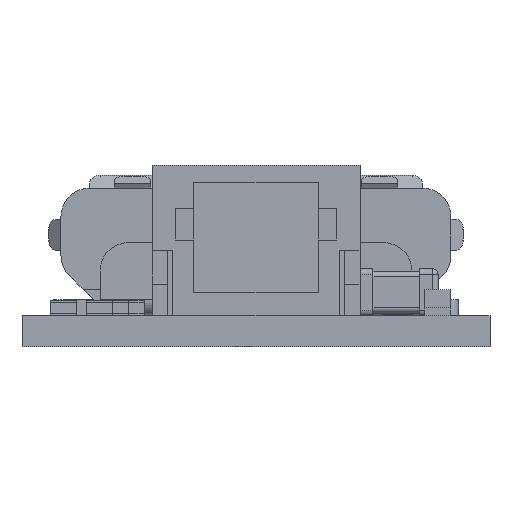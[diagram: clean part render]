
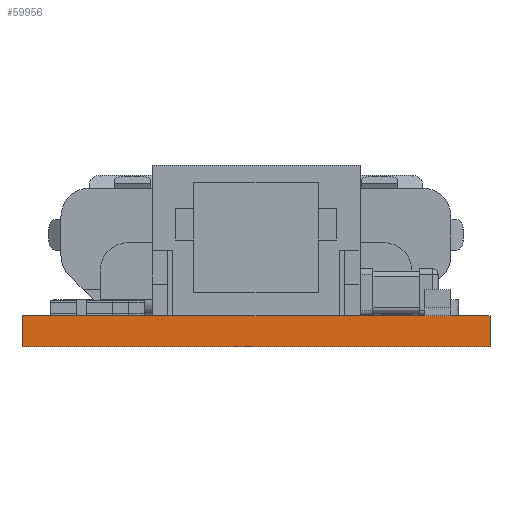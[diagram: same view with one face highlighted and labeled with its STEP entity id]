
A CAD part, front view. The second image highlights one B-rep face of the part: STEP entity #59956.
In plain terms, the highlighted planar face has unit normal (0, -1, 0).
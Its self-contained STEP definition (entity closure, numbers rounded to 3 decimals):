
#59956 = ADVANCED_FACE('',(#59957),#59971,.F.);
#59957 = FACE_BOUND('',#59958,.F.);
#59958 = EDGE_LOOP('',(#59959,#59994,#60022,#60050));
#59959 = ORIENTED_EDGE('',*,*,#59960,.T.);
#59960 = EDGE_CURVE('',#59961,#59963,#59965,.T.);
#59961 = VERTEX_POINT('',#59962);
#59962 = CARTESIAN_POINT('',(15.5,11.,0.));
#59963 = VERTEX_POINT('',#59964);
#59964 = CARTESIAN_POINT('',(15.5,11.,0.6));
#59965 = SURFACE_CURVE('',#59966,(#59970,#59982),.PCURVE_S1.);
#59966 = LINE('',#59967,#59968);
#59967 = CARTESIAN_POINT('',(15.5,11.,0.));
#59968 = VECTOR('',#59969,1.);
#59969 = DIRECTION('',(0.,0.,1.));
#59970 = PCURVE('',#59971,#59976);
#59971 = PLANE('',#59972);
#59972 = AXIS2_PLACEMENT_3D('',#59973,#59974,#59975);
#59973 = CARTESIAN_POINT('',(15.5,11.,0.));
#59974 = DIRECTION('',(0.,1.,0.));
#59975 = DIRECTION('',(1.,0.,0.));
#59976 = DEFINITIONAL_REPRESENTATION('',(#59977),#59981);
#59977 = LINE('',#59978,#59979);
#59978 = CARTESIAN_POINT('',(0.,0.));
#59979 = VECTOR('',#59980,1.);
#59980 = DIRECTION('',(0.,-1.));
#59981 = ( GEOMETRIC_REPRESENTATION_CONTEXT(2) 
PARAMETRIC_REPRESENTATION_CONTEXT() REPRESENTATION_CONTEXT('2D SPACE',''
  ) );
#59982 = PCURVE('',#59983,#59988);
#59983 = PLANE('',#59984);
#59984 = AXIS2_PLACEMENT_3D('',#59985,#59986,#59987);
#59985 = CARTESIAN_POINT('',(15.5,25.,0.));
#59986 = DIRECTION('',(1.,0.,0.));
#59987 = DIRECTION('',(0.,-1.,0.));
#59988 = DEFINITIONAL_REPRESENTATION('',(#59989),#59993);
#59989 = LINE('',#59990,#59991);
#59990 = CARTESIAN_POINT('',(14.,0.));
#59991 = VECTOR('',#59992,1.);
#59992 = DIRECTION('',(0.,-1.));
#59993 = ( GEOMETRIC_REPRESENTATION_CONTEXT(2) 
PARAMETRIC_REPRESENTATION_CONTEXT() REPRESENTATION_CONTEXT('2D SPACE',''
  ) );
#59994 = ORIENTED_EDGE('',*,*,#59995,.T.);
#59995 = EDGE_CURVE('',#59963,#59996,#59998,.T.);
#59996 = VERTEX_POINT('',#59997);
#59997 = CARTESIAN_POINT('',(24.5,11.,0.6));
#59998 = SURFACE_CURVE('',#59999,(#60003,#60010),.PCURVE_S1.);
#59999 = LINE('',#60000,#60001);
#60000 = CARTESIAN_POINT('',(15.5,11.,0.6));
#60001 = VECTOR('',#60002,1.);
#60002 = DIRECTION('',(1.,0.,0.));
#60003 = PCURVE('',#59971,#60004);
#60004 = DEFINITIONAL_REPRESENTATION('',(#60005),#60009);
#60005 = LINE('',#60006,#60007);
#60006 = CARTESIAN_POINT('',(0.,-0.6));
#60007 = VECTOR('',#60008,1.);
#60008 = DIRECTION('',(1.,0.));
#60009 = ( GEOMETRIC_REPRESENTATION_CONTEXT(2) 
PARAMETRIC_REPRESENTATION_CONTEXT() REPRESENTATION_CONTEXT('2D SPACE',''
  ) );
#60010 = PCURVE('',#60011,#60016);
#60011 = PLANE('',#60012);
#60012 = AXIS2_PLACEMENT_3D('',#60013,#60014,#60015);
#60013 = CARTESIAN_POINT('',(20.,18.008,0.6));
#60014 = DIRECTION('',(0.,0.,1.));
#60015 = DIRECTION('',(1.,0.,-0.));
#60016 = DEFINITIONAL_REPRESENTATION('',(#60017),#60021);
#60017 = LINE('',#60018,#60019);
#60018 = CARTESIAN_POINT('',(-4.5,-7.008));
#60019 = VECTOR('',#60020,1.);
#60020 = DIRECTION('',(1.,0.));
#60021 = ( GEOMETRIC_REPRESENTATION_CONTEXT(2) 
PARAMETRIC_REPRESENTATION_CONTEXT() REPRESENTATION_CONTEXT('2D SPACE',''
  ) );
#60022 = ORIENTED_EDGE('',*,*,#60023,.F.);
#60023 = EDGE_CURVE('',#60024,#59996,#60026,.T.);
#60024 = VERTEX_POINT('',#60025);
#60025 = CARTESIAN_POINT('',(24.5,11.,0.));
#60026 = SURFACE_CURVE('',#60027,(#60031,#60038),.PCURVE_S1.);
#60027 = LINE('',#60028,#60029);
#60028 = CARTESIAN_POINT('',(24.5,11.,0.));
#60029 = VECTOR('',#60030,1.);
#60030 = DIRECTION('',(0.,0.,1.));
#60031 = PCURVE('',#59971,#60032);
#60032 = DEFINITIONAL_REPRESENTATION('',(#60033),#60037);
#60033 = LINE('',#60034,#60035);
#60034 = CARTESIAN_POINT('',(9.,0.));
#60035 = VECTOR('',#60036,1.);
#60036 = DIRECTION('',(0.,-1.));
#60037 = ( GEOMETRIC_REPRESENTATION_CONTEXT(2) 
PARAMETRIC_REPRESENTATION_CONTEXT() REPRESENTATION_CONTEXT('2D SPACE',''
  ) );
#60038 = PCURVE('',#60039,#60044);
#60039 = PLANE('',#60040);
#60040 = AXIS2_PLACEMENT_3D('',#60041,#60042,#60043);
#60041 = CARTESIAN_POINT('',(24.5,11.,0.));
#60042 = DIRECTION('',(-1.,0.,0.));
#60043 = DIRECTION('',(0.,1.,0.));
#60044 = DEFINITIONAL_REPRESENTATION('',(#60045),#60049);
#60045 = LINE('',#60046,#60047);
#60046 = CARTESIAN_POINT('',(0.,0.));
#60047 = VECTOR('',#60048,1.);
#60048 = DIRECTION('',(0.,-1.));
#60049 = ( GEOMETRIC_REPRESENTATION_CONTEXT(2) 
PARAMETRIC_REPRESENTATION_CONTEXT() REPRESENTATION_CONTEXT('2D SPACE',''
  ) );
#60050 = ORIENTED_EDGE('',*,*,#60051,.F.);
#60051 = EDGE_CURVE('',#59961,#60024,#60052,.T.);
#60052 = SURFACE_CURVE('',#60053,(#60057,#60064),.PCURVE_S1.);
#60053 = LINE('',#60054,#60055);
#60054 = CARTESIAN_POINT('',(15.5,11.,0.));
#60055 = VECTOR('',#60056,1.);
#60056 = DIRECTION('',(1.,0.,0.));
#60057 = PCURVE('',#59971,#60058);
#60058 = DEFINITIONAL_REPRESENTATION('',(#60059),#60063);
#60059 = LINE('',#60060,#60061);
#60060 = CARTESIAN_POINT('',(0.,0.));
#60061 = VECTOR('',#60062,1.);
#60062 = DIRECTION('',(1.,0.));
#60063 = ( GEOMETRIC_REPRESENTATION_CONTEXT(2) 
PARAMETRIC_REPRESENTATION_CONTEXT() REPRESENTATION_CONTEXT('2D SPACE',''
  ) );
#60064 = PCURVE('',#60065,#60070);
#60065 = PLANE('',#60066);
#60066 = AXIS2_PLACEMENT_3D('',#60067,#60068,#60069);
#60067 = CARTESIAN_POINT('',(20.,18.008,0.));
#60068 = DIRECTION('',(0.,0.,1.));
#60069 = DIRECTION('',(1.,0.,-0.));
#60070 = DEFINITIONAL_REPRESENTATION('',(#60071),#60075);
#60071 = LINE('',#60072,#60073);
#60072 = CARTESIAN_POINT('',(-4.5,-7.008));
#60073 = VECTOR('',#60074,1.);
#60074 = DIRECTION('',(1.,0.));
#60075 = ( GEOMETRIC_REPRESENTATION_CONTEXT(2) 
PARAMETRIC_REPRESENTATION_CONTEXT() REPRESENTATION_CONTEXT('2D SPACE',''
  ) );
